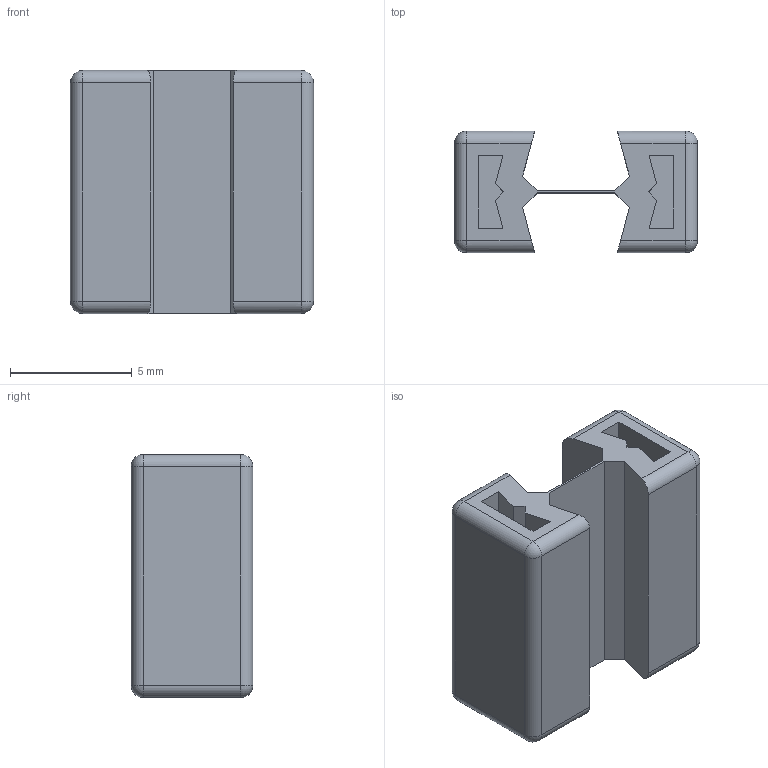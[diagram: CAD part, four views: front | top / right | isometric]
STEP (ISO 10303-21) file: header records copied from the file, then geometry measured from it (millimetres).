
FILE_DESCRIPTION(/* description */ (''),/* implementation_level */ '2;1');
FILE_NAME(/* name */ 'C:/Users/priba/Downloads/Brick1x1x0.5ff.step',/* time_stamp */ '2022-04-03T10:32:35+02:00',/* author */ (''),/* organization */ (''),/* preprocessor_version */ 'ST-DEVELOPER v18.1',/* originating_system */ 'Autodesk Translation Framework v10.13.0.1454',/* authorisation */ '');
FILE_SCHEMA (('AUTOMOTIVE_DESIGN { 1 0 10303 214 3 1 1 }'));
Length unit declared in the file: millimetre
Products named in the file (1): Brick1x1x0.5ff
Bounding box: 10 x 5 x 10 mm (x, y, z)
Volume: 259.7 mm3; surface area: 599.8 mm2
Topology: 1 solids, 1 shells, 58 faces, 138 edges, 84 vertices
Faces by surface type: plane 34, cylinder 16, sphere 8
Entity records: 1664 total; most frequent: DIRECTION 288, CARTESIAN_POINT 281, ORIENTED_EDGE 276, EDGE_CURVE 138, LINE 106, VECTOR 106, AXIS2_PLACEMENT_3D 91, VERTEX_POINT 84
